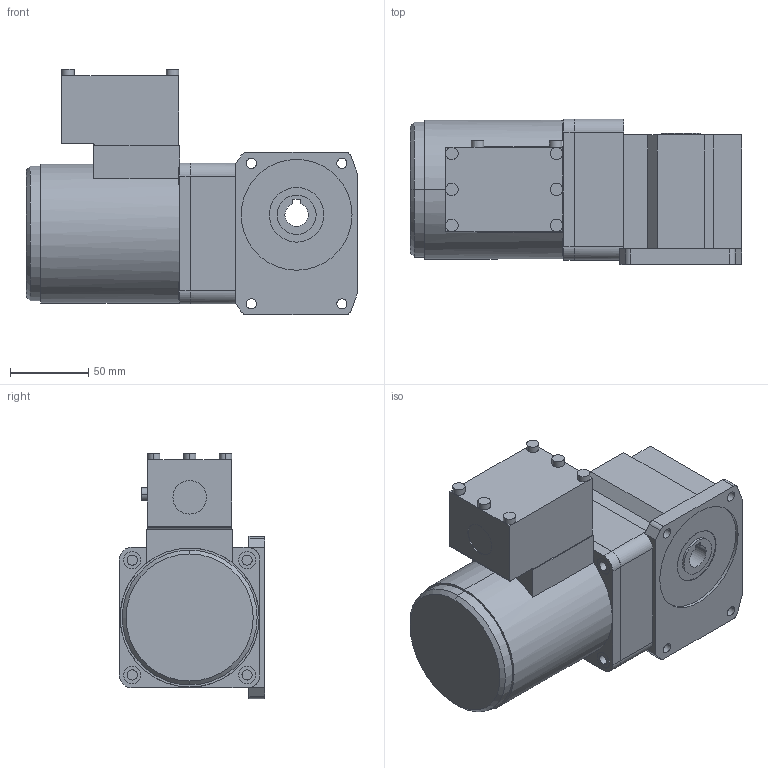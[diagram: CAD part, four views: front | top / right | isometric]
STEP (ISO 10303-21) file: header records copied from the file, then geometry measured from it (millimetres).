
FILE_DESCRIPTION(('starvars output'),'2;1');
FILE_NAME('5IK40GN-ECH _ 5GN60RH.stp','10:36:36 2015/05/11',( 'Thomas Industrial Network Germany GmbH'),( 'Thomas Industrial Network Germany GmbH'),'unknown preprocess','ACIS' ,'unknown authorization');
FILE_SCHEMA(('AUTOMOTIVE_DESIGN_CC2 {UNKNOWN IMPLEMENTATION LEVEL}'));
Length unit declared in the file: millimetre
Products named in the file (1): PRODUCT_ID_490
Bounding box: 212 x 93 x 157.2 mm (x, y, z)
Volume: 1617024.9 mm3; surface area: 109010.2 mm2
Topology: 1 solids, 1 shells, 169 faces, 415 edges, 270 vertices
Faces by surface type: plane 85, cylinder 82, cone 2
Entity records: 5848 total; most frequent: ORIENTED_EDGE 830, CARTESIAN_POINT 725, DIRECTION 684, EDGE_CURVE 415, VERTEX_POINT 270, AXIS2_PLACEMENT_3D 229, VECTOR 226, LINE 226
